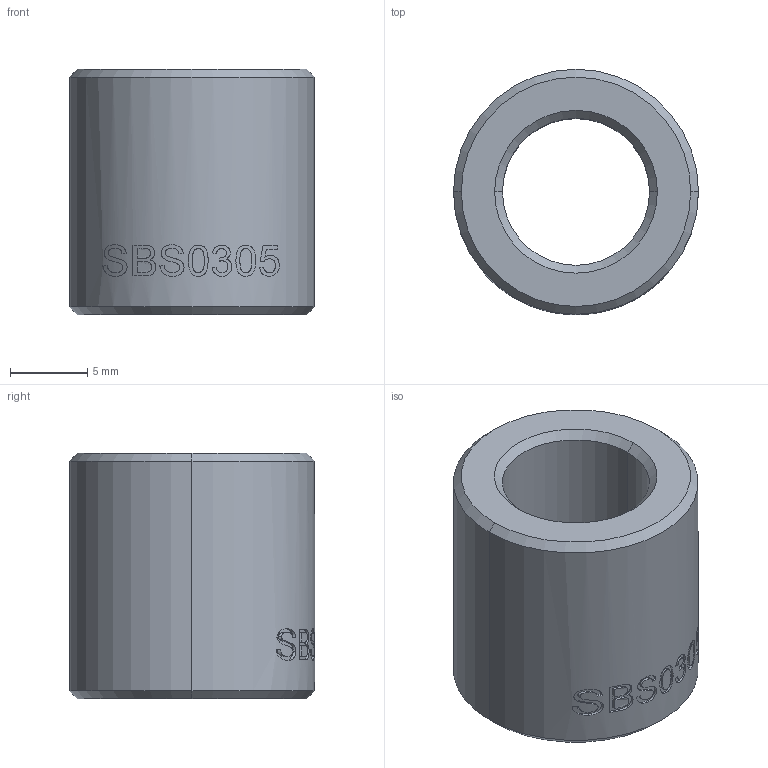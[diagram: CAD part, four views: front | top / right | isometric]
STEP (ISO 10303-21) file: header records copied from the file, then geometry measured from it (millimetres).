
FILE_DESCRIPTION (( 'STEP AP203' ), '1' );
FILE_NAME ('SBS0305_375_Rod_Bushing.STEP', '2020-12-18T15:19:30', ( '' ), ( '' ), 'SwSTEP 2.0', 'SolidWorks 2020', '' );
FILE_SCHEMA (( 'CONFIG_CONTROL_DESIGN' ));
Length unit declared in the file: inch
Products named in the file (1): SBS0305_375_Rod_Bushing
Bounding box: 15.88 x 15.88 x 15.88 mm (x, y, z)
Volume: 1988.9 mm3; surface area: 1484.8 mm2
Topology: 1 solids, 1 shells, 129 faces, 342 edges, 226 vertices
Faces by surface type: bspline 81, plane 25, cylinder 15, cone 8
Entity records: 7597 total; most frequent: CARTESIAN_POINT 4871, ORIENTED_EDGE 684, EDGE_CURVE 342, DIRECTION 306, VERTEX_POINT 226, B_SPLINE_CURVE_WITH_KNOTS 162, EDGE_LOOP 142, ADVANCED_FACE 129
